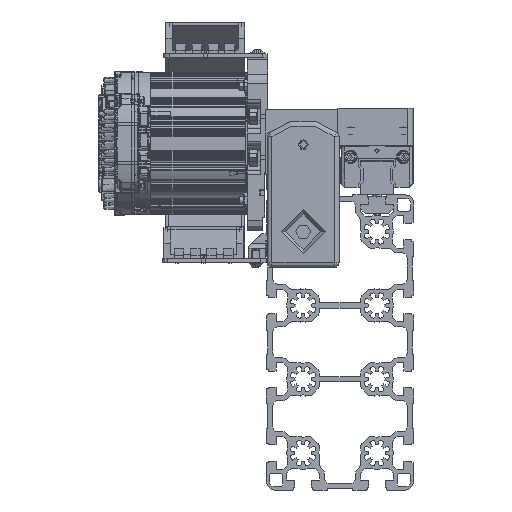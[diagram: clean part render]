
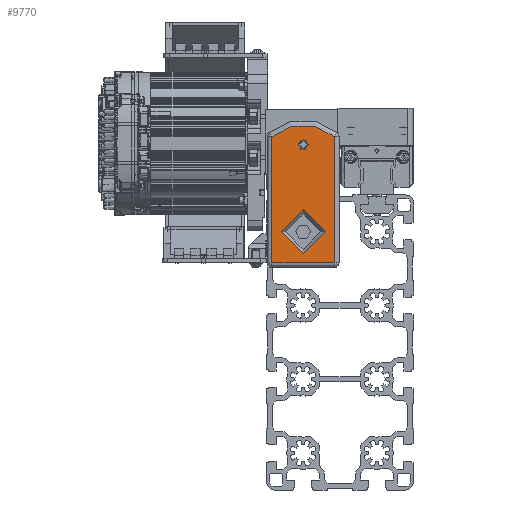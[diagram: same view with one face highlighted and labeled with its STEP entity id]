
A CAD part, front view. The second image highlights one B-rep face of the part: STEP entity #9770.
In plain terms, the highlighted planar face has unit normal (0, -1, 0) as drawn and (1, 0, 0) by its records, which use the part's own axes.
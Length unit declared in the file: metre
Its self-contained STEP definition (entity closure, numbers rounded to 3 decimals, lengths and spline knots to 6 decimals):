
#9770 = ADVANCED_FACE( '', ( #25005, #25006, #25007 ), #25008, .T. );
#25005 = FACE_BOUND( '', #50657, .T. );
#25006 = FACE_OUTER_BOUND( '', #50658, .T. );
#25007 = FACE_BOUND( '', #50659, .T. );
#25008 = PLANE( '', #50660 );
#50657 = EDGE_LOOP( '', ( #141415 ) );
#50658 = EDGE_LOOP( '', ( #141416, #141417, #141418, #141419 ) );
#50659 = EDGE_LOOP( '', ( #141420 ) );
#50660 = AXIS2_PLACEMENT_3D( '', #141421, #141422, #141423 );
#141415 = ORIENTED_EDGE( '', *, *, #199116, .T. );
#141416 = ORIENTED_EDGE( '', *, *, #199117, .T. );
#141417 = ORIENTED_EDGE( '', *, *, #199118, .T. );
#141418 = ORIENTED_EDGE( '', *, *, #199119, .T. );
#141419 = ORIENTED_EDGE( '', *, *, #199120, .T. );
#141420 = ORIENTED_EDGE( '', *, *, #199121, .F. );
#141421 = CARTESIAN_POINT( '', ( 0.00144, -0.022, 0.05928 ) );
#141422 = DIRECTION( '', ( 1., 0., 0. ) );
#141423 = DIRECTION( '', ( 0., 0., -1. ) );
#199116 = EDGE_CURVE( '', #224308, #224308, #224309, .T. );
#199117 = EDGE_CURVE( '', #224310, #224311, #224312, .T. );
#199118 = EDGE_CURVE( '', #224311, #224313, #224314, .T. );
#199119 = EDGE_CURVE( '', #224313, #224315, #224316, .T. );
#199120 = EDGE_CURVE( '', #224315, #224310, #224317, .T. );
#199121 = EDGE_CURVE( '', #224318, #224318, #224319, .T. );
#224308 = VERTEX_POINT( '', #263782 );
#224309 = CIRCLE( '', #263783, 0.003 );
#224310 = VERTEX_POINT( '', #263784 );
#224311 = VERTEX_POINT( '', #263785 );
#224312 = LINE( '', #263786, #263787 );
#224313 = VERTEX_POINT( '', #263788 );
#224314 = LINE( '', #263789, #263790 );
#224315 = VERTEX_POINT( '', #263791 );
#224316 = CIRCLE( '', #263792, 0.02875 );
#224317 = LINE( '', #263793, #263794 );
#224318 = VERTEX_POINT( '', #263795 );
#224319 = CIRCLE( '', #263796, 0.01344 );
#263782 = CARTESIAN_POINT( '', ( 0.00144, 0., 0.05593 ) );
#263783 = AXIS2_PLACEMENT_3D( '', #348219, #348220, #348221 );
#263784 = CARTESIAN_POINT( '', ( 0.00144, -0.019, -0.019 ) );
#263785 = CARTESIAN_POINT( '', ( 0.00144, 0.019, -0.019 ) );
#263786 = CARTESIAN_POINT( '', ( 0.00144, 0.019, -0.019 ) );
#263787 = VECTOR( '', #348222, 1. );
#263788 = CARTESIAN_POINT( '', ( 0.00144, 0.019, 0.057964 ) );
#263789 = CARTESIAN_POINT( '', ( 0.00144, 0.019, 0.057964 ) );
#263790 = VECTOR( '', #348223, 1. );
#263791 = CARTESIAN_POINT( '', ( 0.00144, -0.019, 0.057964 ) );
#263792 = AXIS2_PLACEMENT_3D( '', #348224, #348225, #348226 );
#263793 = CARTESIAN_POINT( '', ( 0.00144, -0.019, -0.019 ) );
#263794 = VECTOR( '', #348227, 1. );
#263795 = CARTESIAN_POINT( '', ( 0.00144, 0., -0.01344 ) );
#263796 = AXIS2_PLACEMENT_3D( '', #348228, #348229, #348230 );
#348219 = CARTESIAN_POINT( '', ( 0.00144, 0., 0.05293 ) );
#348220 = DIRECTION( '', ( -1., 0., 0. ) );
#348221 = DIRECTION( '', ( 0., 0., 1. ) );
#348222 = DIRECTION( '', ( 0., 1., 0. ) );
#348223 = DIRECTION( '', ( 0., 0., 1. ) );
#348224 = CARTESIAN_POINT( '', ( 0.00144, 0., 0.036388 ) );
#348225 = DIRECTION( '', ( 1., 0., 0. ) );
#348226 = DIRECTION( '', ( 0., 0., -1. ) );
#348227 = DIRECTION( '', ( 0., 0., -1. ) );
#348228 = CARTESIAN_POINT( '', ( 0.00144, 0., 0. ) );
#348229 = DIRECTION( '', ( 1., 0., 0. ) );
#348230 = DIRECTION( '', ( 0., 0., -1. ) );
